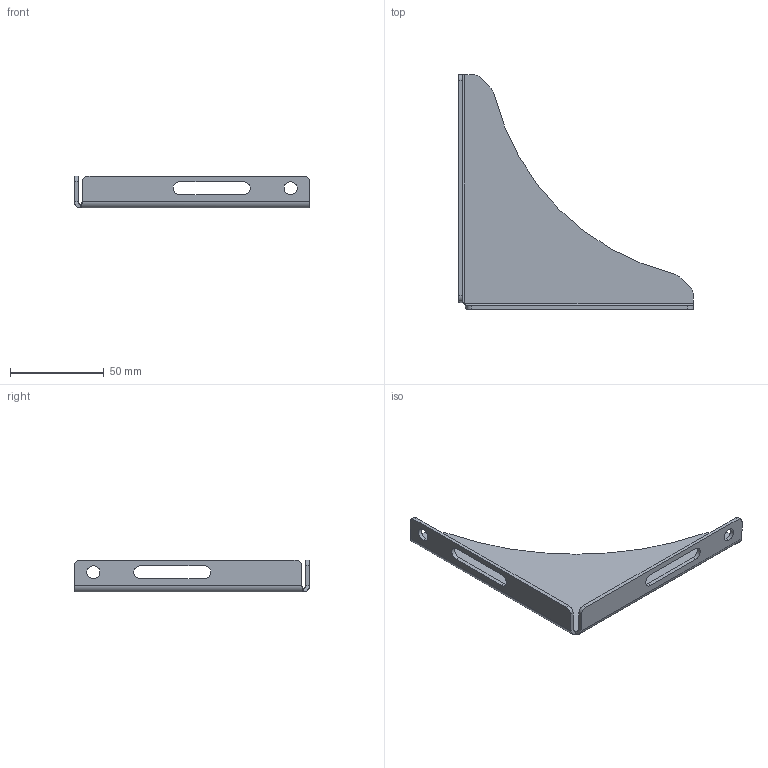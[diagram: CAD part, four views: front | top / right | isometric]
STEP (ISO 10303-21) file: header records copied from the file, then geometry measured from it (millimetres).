
FILE_DESCRIPTION (( 'STEP AP203' ), '1' );
FILE_NAME ('013.100.022.STEP', '2020-11-26T14:12:18', ( '' ), ( '' ), 'SwSTEP 2.0', 'SolidWorks 2018', '' );
FILE_SCHEMA (( 'CONFIG_CONTROL_DESIGN' ));
Length unit declared in the file: millimetre
Products named in the file (1): 013.100.022
Bounding box: 125 x 125 x 17 mm (x, y, z)
Volume: 19759 mm3; surface area: 21184.9 mm2
Topology: 1 solids, 1 shells, 45 faces, 113 edges, 70 vertices
Faces by surface type: plane 22, cylinder 21, bspline 2
Entity records: 1546 total; most frequent: CARTESIAN_POINT 359, DIRECTION 235, ORIENTED_EDGE 226, EDGE_CURVE 113, AXIS2_PLACEMENT_3D 82, VECTOR 71, LINE 71, VERTEX_POINT 70
